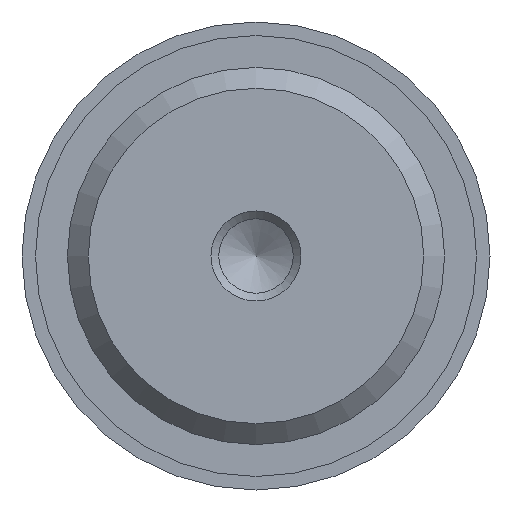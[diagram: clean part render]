
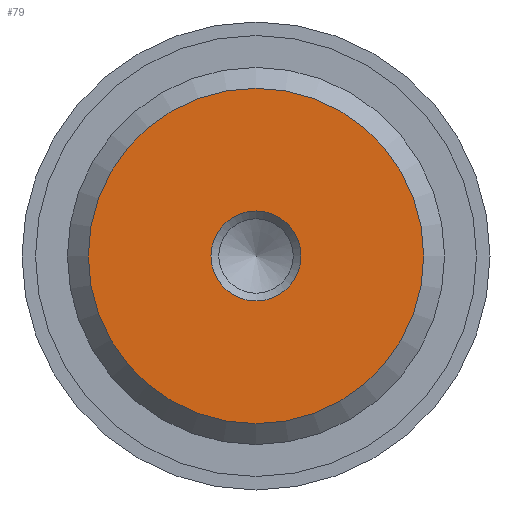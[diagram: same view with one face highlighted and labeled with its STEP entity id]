
A CAD part, front view. The second image highlights one B-rep face of the part: STEP entity #79.
In plain terms, the highlighted planar face has unit normal (0, -1, 0).
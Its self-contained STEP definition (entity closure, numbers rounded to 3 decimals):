
#79 = ADVANCED_FACE( '', ( #139, #140 ), #141, .F. );
#139 = FACE_BOUND( '', #257, .T. );
#140 = FACE_OUTER_BOUND( '', #258, .T. );
#141 = PLANE( '', #259 );
#257 = EDGE_LOOP( '', ( #387 ) );
#258 = EDGE_LOOP( '', ( #388 ) );
#259 = AXIS2_PLACEMENT_3D( '', #389, #390, #391 );
#387 = ORIENTED_EDGE( '', *, *, #758, .F. );
#388 = ORIENTED_EDGE( '', *, *, #762, .T. );
#389 = CARTESIAN_POINT( '', ( 9.316, 0., 0. ) );
#390 = DIRECTION( '', ( 0., 1., 0. ) );
#391 = DIRECTION( '', ( 0., 0., 1. ) );
#758 = EDGE_CURVE( '', #880, #880, #881, .T. );
#762 = EDGE_CURVE( '', #886, #886, #887, .T. );
#880 = VERTEX_POINT( '', #1090 );
#881 = CIRCLE( '', #1091, 2.5 );
#886 = VERTEX_POINT( '', #1096 );
#887 = CIRCLE( '', #1097, 9.316 );
#1090 = CARTESIAN_POINT( '', ( 2.5, 0., 0. ) );
#1091 = AXIS2_PLACEMENT_3D( '', #1434, #1435, #1436 );
#1096 = CARTESIAN_POINT( '', ( 0., 0., -9.316 ) );
#1097 = AXIS2_PLACEMENT_3D( '', #1443, #1444, #1445 );
#1434 = CARTESIAN_POINT( '', ( 0., 0., 0. ) );
#1435 = DIRECTION( '', ( 0., -1., 0. ) );
#1436 = DIRECTION( '', ( 1., 0., 0. ) );
#1443 = CARTESIAN_POINT( '', ( 0., 0., 0. ) );
#1444 = DIRECTION( '', ( 0., -1., 0. ) );
#1445 = DIRECTION( '', ( 0., 0., -1. ) );
